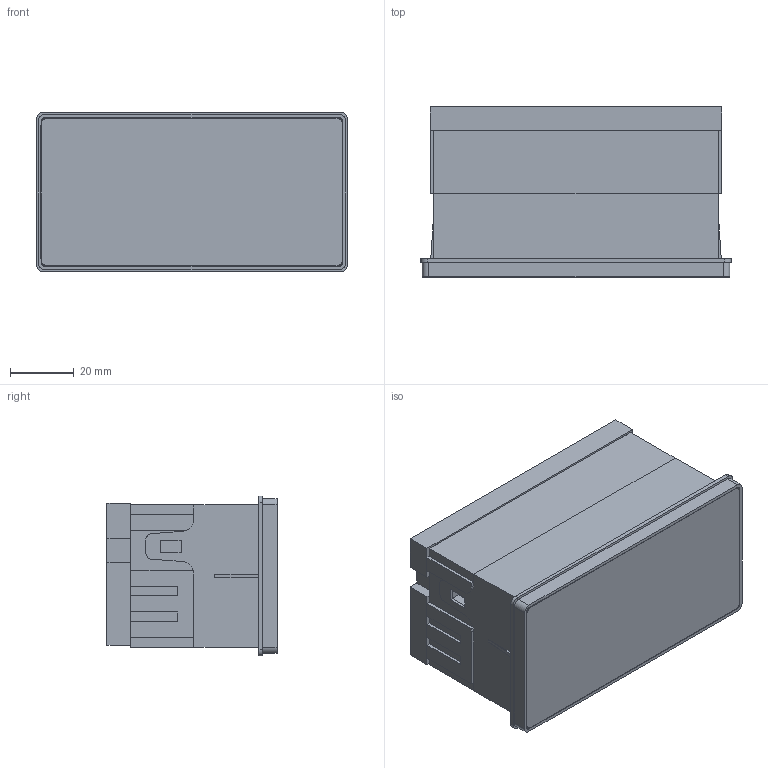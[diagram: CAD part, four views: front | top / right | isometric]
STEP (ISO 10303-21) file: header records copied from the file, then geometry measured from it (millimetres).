
FILE_DESCRIPTION(/* description */ (''),/* implementation_level */ '2;1');
FILE_NAME(/* name */ '\\srv-tecnico\Archivio_Tecnico\Disegni_Meccanici\2017\DM\S311AK-L\dm00197-0.stp',/* time_stamp */ '2021-06-17T12:05:36+02:00',/* author */ ('zambolin'),/* organization */ (''),/* preprocessor_version */ 'ST-DEVELOPER v18',/* originating_system */ 'Autodesk Inventor 2020',/* authorisation */ '');
FILE_SCHEMA (('AUTOMOTIVE_DESIGN { 1 0 10303 214 3 1 1 }'));
Length unit declared in the file: millimetre
Products named in the file (8): Assieme1; display; frontalino2; S4011; S4012; x40; x100; pannello-posteriore
Assembly tree (7 placements, depth 3):
  Assieme1
    display
      frontalino2
      S4011
      S4012
    x40
    x100
    pannello-posteriore
Bounding box: 97 x 53.22 x 50 mm (x, y, z)
Volume: 120123.5 mm3; surface area: 61123.8 mm2
Topology: 6 solids, 6 shells, 200 faces, 546 edges, 364 vertices
Faces by surface type: plane 158, cylinder 42
Full cylindrical faces by diameter (mm): 4.5 x4
Entity records: 6601 total; most frequent: CARTESIAN_POINT 1125, ORIENTED_EDGE 1092, DIRECTION 1064, EDGE_CURVE 546, LINE 458, VECTOR 458, VERTEX_POINT 364, AXIS2_PLACEMENT_3D 303
